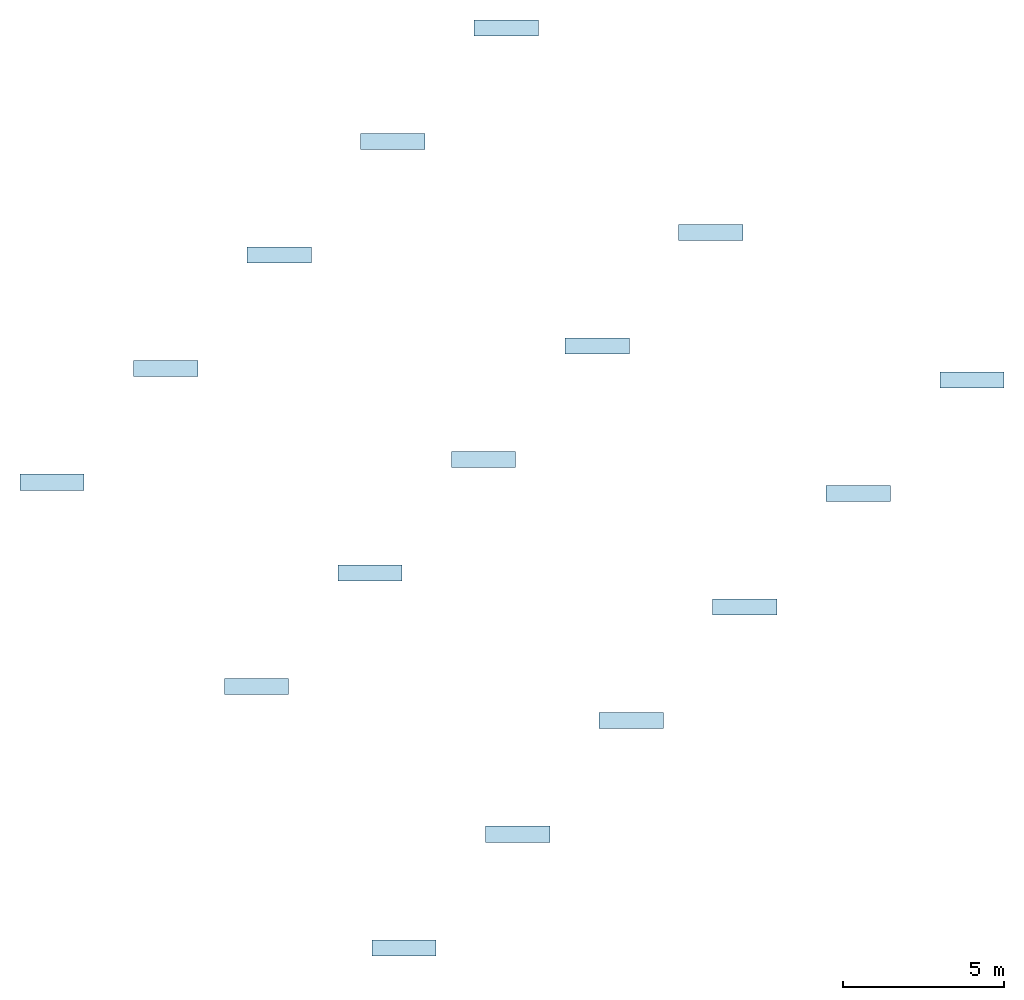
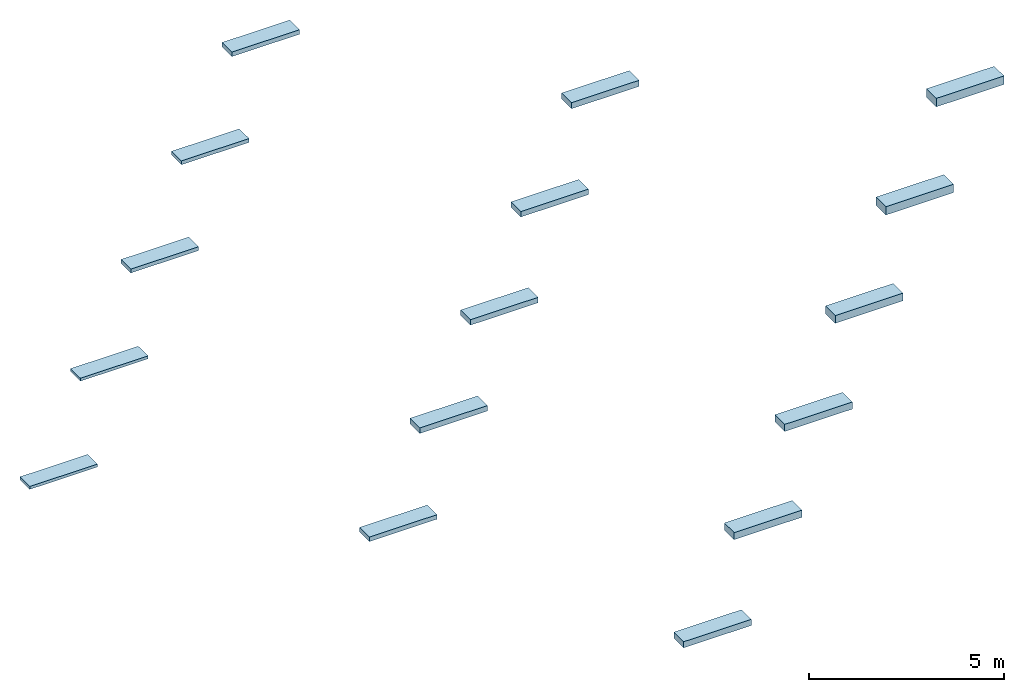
# One storey: 16 slabs, 16 elements without a shape of their own.
"""IFC2X3 building model written with IfcOpenShell, lengths in millimetres."""

from ifc_helpers import new_model, entity, si_unit, converted_unit, derived_unit, direction, frame, frame_2d, origin, origin_2d_with_axis, place, context, subcontext, project, spatial, rectangle, extrude, material, layer, layer_set, element, aggregate, save


model = new_model("IFC2X3")

# Units and contexts
model_context = context("Model", 3, precision=0.01, world=origin(), true_north=direction((6.12303176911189e-17, 1.0)))
context_of_model = context(None, 3, precision=0.01, world=origin(), true_north=direction((6.12303176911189e-17, 1.0)))
body_context = subcontext(model_context, "Body", "Model", "MODEL_VIEW")
ifc_project = project(units=[si_unit("LENGTHUNIT", "METRE", prefix="MILLI"), si_unit("AREAUNIT", "SQUARE_METRE"), si_unit("VOLUMEUNIT", "CUBIC_METRE"), converted_unit("PLANEANGLEUNIT", "DEGREE", entity("IfcRatioMeasure", 0.0174532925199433), si_unit("PLANEANGLEUNIT", "RADIAN"), dimensions=[0, 0, 0, 0, 0, 0, 0]), si_unit("MASSUNIT", "GRAM", prefix="KILO"), derived_unit("MASSDENSITYUNIT", [(si_unit("MASSUNIT", "GRAM", prefix="KILO"), 1), (si_unit("LENGTHUNIT", "METRE"), -3)]), si_unit("TIMEUNIT", "SECOND"), si_unit("FREQUENCYUNIT", "HERTZ"), si_unit("THERMODYNAMICTEMPERATUREUNIT", "DEGREE_CELSIUS"), derived_unit("THERMALTRANSMITTANCEUNIT", [(si_unit("MASSUNIT", "GRAM", prefix="KILO"), 1), (si_unit("THERMODYNAMICTEMPERATUREUNIT", "KELVIN"), -1), (si_unit("TIMEUNIT", "SECOND"), -3)]), derived_unit("VOLUMETRICFLOWRATEUNIT", [(si_unit("LENGTHUNIT", "METRE"), 3), (si_unit("TIMEUNIT", "SECOND"), -1)]), si_unit("ELECTRICCURRENTUNIT", "AMPERE"), si_unit("ELECTRICVOLTAGEUNIT", "VOLT"), si_unit("POWERUNIT", "WATT"), si_unit("FORCEUNIT", "NEWTON", prefix="KILO"), si_unit("ILLUMINANCEUNIT", "LUX"), si_unit("LUMINOUSFLUXUNIT", "LUMEN"), si_unit("LUMINOUSINTENSITYUNIT", "CANDELA"), derived_unit("USERDEFINED", [(si_unit("MASSUNIT", "GRAM", prefix="KILO"), -1), (si_unit("LENGTHUNIT", "METRE"), -2), (si_unit("TIMEUNIT", "SECOND"), 3), (si_unit("LUMINOUSFLUXUNIT", "LUMEN"), 1)]), derived_unit("LINEARVELOCITYUNIT", [(si_unit("LENGTHUNIT", "METRE"), 1), (si_unit("TIMEUNIT", "SECOND"), -1)]), si_unit("PRESSUREUNIT", "PASCAL"), derived_unit("USERDEFINED", [(si_unit("LENGTHUNIT", "METRE"), -2), (si_unit("MASSUNIT", "GRAM", prefix="KILO"), 1), (si_unit("TIMEUNIT", "SECOND"), -2)])], contexts=[model_context, context_of_model])

# Site, building, storey
site_placement = place(None, origin())
site = spatial("IfcSite", under=ifc_project, at=site_placement, Name="Default", CompositionType="ELEMENT")
building_placement = place(site_placement, origin())
building = spatial("IfcBuilding", under=site, at=building_placement, CompositionType="ELEMENT")
storey_placement = place(building_placement, frame((0.0, 0.0, 2500.0)))
storey = spatial("IfcBuildingStorey", under=building, at=storey_placement, Name="Lengte", CompositionType="ELEMENT", Elevation=2500.0)

# Roof, slab
roof_1_placement = place(storey_placement, frame((-9072.40468108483, 2539.14727702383, 0.0)))
roof_1 = element("IfcRoof", 1, at=roof_1_placement, inside=storey, Name="Basic Roof:NLRS_27_RO_Naturoll 037_90x380x8200mm", ObjectType="Basic Roof:NLRS_27_RO_Naturoll 037_90x380x8200mm", ShapeType="NOTDEFINED")
ifc_material = material(Name="Knauf Insulation_Ecose® glaswol_naturoll 037")
ifc_layer_1 = layer(ifc_material, 90.0)
ifc_layer_set_1 = layer_set([ifc_layer_1], Name="Basic Roof:NLRS_27_RO_Naturoll 037_90x380x8200mm")
slab_1_placement = place(roof_1_placement, origin())
slab_1 = element("IfcSlab", 2, at=slab_1_placement, material=ifc_layer_set_1, Name="Basic Roof:NLRS_27_RO_Naturoll 037_90x380x8200mm", ObjectType="Basic Roof:NLRS_27_RO_Naturoll 037_90x380x8200mm", PredefinedType="ROOF", context=body_context, shape_type="SweptSolid", body=[
    extrude(rectangle(XDim=2000.0, YDim=499.999999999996, at=frame_2d((-5.6843418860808e-13, -2.70006239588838e-13), x_axis=(1.0, 0.0))), frame((1000.0, 250.0, 0.0)), (0.0, 0.0, 1.0), 90.0000000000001),
])
aggregate(roof_1, [slab_1])

roof_2_placement = place(storey_placement, frame((-5536.87077515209, 6074.68118295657, 0.0)))
roof_2 = element("IfcRoof", 3, at=roof_2_placement, inside=storey, Name="Basic Roof:NLRS_27_RO_Naturoll 037_90x580x8200mm", ObjectType="Basic Roof:NLRS_27_RO_Naturoll 037_90x580x8200mm", ShapeType="NOTDEFINED")
ifc_layer_2 = layer(ifc_material, 90.0)
ifc_layer_set_2 = layer_set([ifc_layer_2], Name="Basic Roof:NLRS_27_RO_Naturoll 037_90x580x8200mm")
slab_2_placement = place(roof_2_placement, origin())
slab_2 = element("IfcSlab", 4, at=slab_2_placement, material=ifc_layer_set_2, Name="Basic Roof:NLRS_27_RO_Naturoll 037_90x580x8200mm", ObjectType="Basic Roof:NLRS_27_RO_Naturoll 037_90x580x8200mm", PredefinedType="ROOF", context=body_context, shape_type="SweptSolid", body=[
    extrude(rectangle(XDim=2000.0, YDim=499.999999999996, at=frame_2d((0.0, 5.40012479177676e-13), x_axis=(1.0, 0.0))), frame((1000.0, 250.0, 0.0)), (0.0, 0.0, 1.0), 90.0000000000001),
])
aggregate(roof_2, [slab_2])

roof_3_placement = place(storey_placement, frame((-2001.33686921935, 9610.2150888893, 0.0)))
roof_3 = element("IfcRoof", 5, at=roof_3_placement, inside=storey, Name="Basic Roof:NLRS_27_RO_Naturoll 037_120x380x6500mm", ObjectType="Basic Roof:NLRS_27_RO_Naturoll 037_120x380x6500mm", ShapeType="NOTDEFINED")
ifc_layer_3 = layer(ifc_material, 120.0)
ifc_layer_set_3 = layer_set([ifc_layer_3], Name="Basic Roof:NLRS_27_RO_Naturoll 037_120x380x6500mm")
slab_3_placement = place(roof_3_placement, origin())
slab_3 = element("IfcSlab", 6, at=slab_3_placement, material=ifc_layer_set_3, Name="Basic Roof:NLRS_27_RO_Naturoll 037_120x380x6500mm", ObjectType="Basic Roof:NLRS_27_RO_Naturoll 037_120x380x6500mm", PredefinedType="ROOF", context=body_context, shape_type="SweptSolid", body=[
    extrude(rectangle(XDim=2000.0, YDim=499.999999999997, at=frame_2d((0.0, 1.09423581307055e-12), x_axis=(1.0, 0.0))), frame((1000.0, 250.0, 0.0)), (0.0, 0.0, 1.0), 120.0),
])
aggregate(roof_3, [slab_3])

roof_4_placement = place(storey_placement, frame((1534.19703671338, 13145.748994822, 0.0)))
roof_4 = element("IfcRoof", 7, at=roof_4_placement, inside=storey, Name="Basic Roof:NLRS_27_RO_Naturoll 037_120x580x6500mm", ObjectType="Basic Roof:NLRS_27_RO_Naturoll 037_120x580x6500mm", ShapeType="NOTDEFINED")
ifc_layer_4 = layer(ifc_material, 120.0)
ifc_layer_set_4 = layer_set([ifc_layer_4], Name="Basic Roof:NLRS_27_RO_Naturoll 037_120x580x6500mm")
slab_4_placement = place(roof_4_placement, origin())
slab_4 = element("IfcSlab", 8, at=slab_4_placement, material=ifc_layer_set_4, Name="Basic Roof:NLRS_27_RO_Naturoll 037_120x580x6500mm", ObjectType="Basic Roof:NLRS_27_RO_Naturoll 037_120x580x6500mm", PredefinedType="ROOF", context=body_context, shape_type="SweptSolid", body=[
    extrude(rectangle(XDim=2000.0, YDim=499.999999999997, at=frame_2d((0.0, 1.09423581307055e-12), x_axis=(1.0, 0.0))), frame((1000.0, 250.0, 0.0)), (0.0, 0.0, 1.0), 120.0),
])
aggregate(roof_4, [slab_4])

roof_5_placement = place(storey_placement, frame((5069.73094264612, 16681.2829007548, 0.0)))
roof_5 = element("IfcRoof", 9, at=roof_5_placement, inside=storey, Name="Basic Roof:NLRS_27_RO_Naturoll 037_140x380x5600mm", ObjectType="Basic Roof:NLRS_27_RO_Naturoll 037_140x380x5600mm", ShapeType="NOTDEFINED")
ifc_layer_5 = layer(ifc_material, 140.0)
ifc_layer_set_5 = layer_set([ifc_layer_5], Name="Basic Roof:NLRS_27_RO_Naturoll 037_140x380x5600mm")
slab_5_placement = place(roof_5_placement, origin())
slab_5 = element("IfcSlab", 10, at=slab_5_placement, material=ifc_layer_set_5, Name="Basic Roof:NLRS_27_RO_Naturoll 037_140x380x5600mm", ObjectType="Basic Roof:NLRS_27_RO_Naturoll 037_140x380x5600mm", PredefinedType="ROOF", context=body_context, shape_type="SweptSolid", body=[
    extrude(rectangle(XDim=2000.0, YDim=499.999999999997, at=frame_2d((0.0, 1.09423581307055e-12), x_axis=(1.0, 0.0))), frame((1000.0, 250.0, 0.0)), (0.0, 0.0, 1.0), 140.0),
])
aggregate(roof_5, [slab_5])

roof_6_placement = place(storey_placement, frame((-2708.44365040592, -3824.81375365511, 0.0)))
roof_6 = element("IfcRoof", 11, at=roof_6_placement, inside=storey, Name="Basic Roof:NLRS_27_RO_Naturoll 037_140x580x5600mm", ObjectType="Basic Roof:NLRS_27_RO_Naturoll 037_140x580x5600mm", ShapeType="NOTDEFINED")
ifc_layer_6 = layer(ifc_material, 140.0)
ifc_layer_set_6 = layer_set([ifc_layer_6], Name="Basic Roof:NLRS_27_RO_Naturoll 037_140x580x5600mm")
slab_6_placement = place(roof_6_placement, origin())
slab_6 = element("IfcSlab", 12, at=slab_6_placement, material=ifc_layer_set_6, Name="Basic Roof:NLRS_27_RO_Naturoll 037_140x580x5600mm", ObjectType="Basic Roof:NLRS_27_RO_Naturoll 037_140x580x5600mm", PredefinedType="ROOF", context=body_context, shape_type="SweptSolid", body=[
    extrude(rectangle(XDim=2000.0, YDim=499.999999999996, at=frame_2d((0.0, -2.70006239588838e-13), x_axis=(1.0, 0.0))), frame((1000.0, 250.0, 0.0)), (0.0, 0.0, 1.0), 140.0),
])
aggregate(roof_6, [slab_6])

roof_7_placement = place(storey_placement, frame((827.09025552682, -289.279847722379, 0.0)))
roof_7 = element("IfcRoof", 13, at=roof_7_placement, inside=storey, Name="Basic Roof:NLRS_27_RO_Naturoll 037_170x380x4600mm", ObjectType="Basic Roof:NLRS_27_RO_Naturoll 037_170x380x4600mm", ShapeType="NOTDEFINED")
ifc_layer_7 = layer(ifc_material, 170.0)
ifc_layer_set_7 = layer_set([ifc_layer_7], Name="Basic Roof:NLRS_27_RO_Naturoll 037_170x380x4600mm")
slab_7_placement = place(roof_7_placement, origin())
slab_7 = element("IfcSlab", 14, at=slab_7_placement, material=ifc_layer_set_7, Name="Basic Roof:NLRS_27_RO_Naturoll 037_170x380x4600mm", ObjectType="Basic Roof:NLRS_27_RO_Naturoll 037_170x380x4600mm", PredefinedType="ROOF", context=body_context, shape_type="SweptSolid", body=[
    extrude(rectangle(XDim=2000.0, YDim=499.999999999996, at=origin_2d_with_axis()), frame((1000.0, 250.0, 0.0)), (0.0, 0.0, 1.0), 170.0),
])
aggregate(roof_7, [slab_7])

roof_8_placement = place(storey_placement, frame((4362.62416145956, 3246.25405821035, 0.0)))
roof_8 = element("IfcRoof", 15, at=roof_8_placement, inside=storey, Name="Basic Roof:NLRS_27_RO_Naturoll 037_170x580x4600mm", ObjectType="Basic Roof:NLRS_27_RO_Naturoll 037_170x580x4600mm", ShapeType="NOTDEFINED")
ifc_layer_8 = layer(ifc_material, 170.0)
ifc_layer_set_8 = layer_set([ifc_layer_8], Name="Basic Roof:NLRS_27_RO_Naturoll 037_170x580x4600mm")
slab_8_placement = place(roof_8_placement, origin())
slab_8 = element("IfcSlab", 16, at=slab_8_placement, material=ifc_layer_set_8, Name="Basic Roof:NLRS_27_RO_Naturoll 037_170x580x4600mm", ObjectType="Basic Roof:NLRS_27_RO_Naturoll 037_170x580x4600mm", PredefinedType="ROOF", context=body_context, shape_type="SweptSolid", body=[
    extrude(rectangle(XDim=2000.0, YDim=499.999999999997, at=frame_2d((2.8421709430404e-13, 0.0), x_axis=(1.0, 0.0))), frame((1000.0, 250.0, 0.0)), (0.0, 0.0, 1.0), 170.0),
])
aggregate(roof_8, [slab_8])

roof_9_placement = place(storey_placement, frame((7898.1580673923, 6781.78796414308, 0.0)))
roof_9 = element("IfcRoof", 17, at=roof_9_placement, inside=storey, Name="Basic Roof:NLRS_27_RO_Naturoll 037_170x590x4600mm", ObjectType="Basic Roof:NLRS_27_RO_Naturoll 037_170x590x4600mm", ShapeType="NOTDEFINED")
ifc_layer_9 = layer(ifc_material, 170.0)
ifc_layer_set_9 = layer_set([ifc_layer_9], Name="Basic Roof:NLRS_27_RO_Naturoll 037_170x590x4600mm")
slab_9_placement = place(roof_9_placement, origin())
slab_9 = element("IfcSlab", 18, at=slab_9_placement, material=ifc_layer_set_9, Name="Basic Roof:NLRS_27_RO_Naturoll 037_170x590x4600mm", ObjectType="Basic Roof:NLRS_27_RO_Naturoll 037_170x590x4600mm", PredefinedType="ROOF", context=body_context, shape_type="SweptSolid", body=[
    extrude(rectangle(XDim=2000.0, YDim=499.999999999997, at=origin_2d_with_axis()), frame((1000.0, 250.0, 0.0)), (0.0, 0.0, 1.0), 170.0),
])
aggregate(roof_9, [slab_9])

roof_10_placement = place(storey_placement, frame((11433.691973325, 10317.3218700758, 0.0)))
roof_10 = element("IfcRoof", 19, at=roof_10_placement, inside=storey, Name="Basic Roof:NLRS_27_RO_Naturoll 037_190x380x4100mm", ObjectType="Basic Roof:NLRS_27_RO_Naturoll 037_190x380x4100mm", ShapeType="NOTDEFINED")
ifc_layer_10 = layer(ifc_material, 190.0)
ifc_layer_set_10 = layer_set([ifc_layer_10], Name="Basic Roof:NLRS_27_RO_Naturoll 037_190x380x4100mm")
slab_10_placement = place(roof_10_placement, origin())
slab_10 = element("IfcSlab", 20, at=slab_10_placement, material=ifc_layer_set_10, Name="Basic Roof:NLRS_27_RO_Naturoll 037_190x380x4100mm", ObjectType="Basic Roof:NLRS_27_RO_Naturoll 037_190x380x4100mm", PredefinedType="ROOF", context=body_context, shape_type="SweptSolid", body=[
    extrude(rectangle(XDim=2000.0, YDim=499.999999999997, at=frame_2d((0.0, 1.09423581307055e-12), x_axis=(1.0, 0.0))), frame((1000.0, 250.0, 0.0)), (0.0, 0.0, 1.0), 190.0),
])
aggregate(roof_10, [slab_10])

roof_11_placement = place(storey_placement, frame((1887.75042730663, -11956.5417373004, 0.0)))
roof_11 = element("IfcRoof", 21, at=roof_11_placement, inside=storey, Name="Basic Roof:NLRS_27_RO_Naturoll 037_190x590x4100mm", ObjectType="Basic Roof:NLRS_27_RO_Naturoll 037_190x590x4100mm", ShapeType="NOTDEFINED")
ifc_layer_11 = layer(ifc_material, 190.0)
ifc_layer_set_11 = layer_set([ifc_layer_11], Name="Basic Roof:NLRS_27_RO_Naturoll 037_190x590x4100mm")
slab_11_placement = place(roof_11_placement, origin())
slab_11 = element("IfcSlab", 22, at=slab_11_placement, material=ifc_layer_set_11, Name="Basic Roof:NLRS_27_RO_Naturoll 037_190x590x4100mm", ObjectType="Basic Roof:NLRS_27_RO_Naturoll 037_190x590x4100mm", PredefinedType="ROOF", context=body_context, shape_type="SweptSolid", body=[
    extrude(rectangle(XDim=2000.0, YDim=499.999999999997, at=frame_2d((0.0, -1.09423581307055e-12), x_axis=(1.0, 0.0))), frame((1000.0, 250.0, 0.0)), (0.0, 0.0, 1.0), 190.0),
])
aggregate(roof_11, [slab_11])

roof_12_placement = place(storey_placement, frame((5423.28433323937, -8421.00783136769, 0.0)))
roof_12 = element("IfcRoof", 23, at=roof_12_placement, inside=storey, Name="Basic Roof:NLRS_27_RO_Naturoll 037_220x580x3500mm", ObjectType="Basic Roof:NLRS_27_RO_Naturoll 037_220x580x3500mm", ShapeType="NOTDEFINED")
ifc_layer_12 = layer(ifc_material, 220.0)
ifc_layer_set_12 = layer_set([ifc_layer_12], Name="Basic Roof:NLRS_27_RO_Naturoll 037_220x580x3500mm")
slab_12_placement = place(roof_12_placement, origin())
slab_12 = element("IfcSlab", 24, at=slab_12_placement, material=ifc_layer_set_12, Name="Basic Roof:NLRS_27_RO_Naturoll 037_220x580x3500mm", ObjectType="Basic Roof:NLRS_27_RO_Naturoll 037_220x580x3500mm", PredefinedType="ROOF", context=body_context, shape_type="SweptSolid", body=[
    extrude(rectangle(XDim=2000.0, YDim=499.999999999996, at=frame_2d((0.0, -5.40012479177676e-13), x_axis=(1.0, 0.0))), frame((1000.0, 250.0, 0.0)), (0.0, 0.0, 1.0), 220.0),
])
aggregate(roof_12, [slab_12])

roof_13_placement = place(storey_placement, frame((8958.81823917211, -4885.47392543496, 0.0)))
roof_13 = element("IfcRoof", 25, at=roof_13_placement, inside=storey, Name="Basic Roof:NLRS_27_RO_Naturoll 037_220x590x3500mm", ObjectType="Basic Roof:NLRS_27_RO_Naturoll 037_220x590x3500mm", ShapeType="NOTDEFINED")
ifc_layer_13 = layer(ifc_material, 220.0)
ifc_layer_set_13 = layer_set([ifc_layer_13], Name="Basic Roof:NLRS_27_RO_Naturoll 037_220x590x3500mm")
slab_13_placement = place(roof_13_placement, origin())
slab_13 = element("IfcSlab", 26, at=slab_13_placement, material=ifc_layer_set_13, Name="Basic Roof:NLRS_27_RO_Naturoll 037_220x590x3500mm", ObjectType="Basic Roof:NLRS_27_RO_Naturoll 037_220x590x3500mm", PredefinedType="ROOF", context=body_context, shape_type="SweptSolid", body=[
    extrude(rectangle(XDim=2000.0, YDim=499.999999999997, at=origin_2d_with_axis()), frame((1000.0, 250.0, 0.0)), (0.0, 0.0, 1.0), 220.0),
])
aggregate(roof_13, [slab_13])

roof_14_placement = place(storey_placement, frame((12494.3521451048, -1349.94001950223, 0.0)))
roof_14 = element("IfcRoof", 27, at=roof_14_placement, inside=storey, Name="Basic Roof:NLRS_27_RO_Naturoll 037_240x590x3250mm", ObjectType="Basic Roof:NLRS_27_RO_Naturoll 037_240x590x3250mm", ShapeType="NOTDEFINED")
ifc_layer_14 = layer(ifc_material, 240.0)
ifc_layer_set_14 = layer_set([ifc_layer_14], Name="Basic Roof:NLRS_27_RO_Naturoll 037_240x590x3250mm")
slab_14_placement = place(roof_14_placement, origin())
slab_14 = element("IfcSlab", 28, at=slab_14_placement, material=ifc_layer_set_14, Name="Basic Roof:NLRS_27_RO_Naturoll 037_240x590x3250mm", ObjectType="Basic Roof:NLRS_27_RO_Naturoll 037_240x590x3250mm", PredefinedType="ROOF", context=body_context, shape_type="SweptSolid", body=[
    extrude(rectangle(XDim=2000.0, YDim=499.999999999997, at=origin_2d_with_axis()), frame((1000.0, 250.0, 0.0)), (0.0, 0.0, 1.0), 240.0),
])
aggregate(roof_14, [slab_14])

roof_15_placement = place(storey_placement, frame((16029.8860510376, 2185.5938864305, 0.0)))
roof_15 = element("IfcRoof", 29, at=roof_15_placement, inside=storey, Name="Basic Roof:NLRS_27_RO_Naturoll 037_260x580x3000mm", ObjectType="Basic Roof:NLRS_27_RO_Naturoll 037_260x580x3000mm", ShapeType="NOTDEFINED")
ifc_layer_15 = layer(ifc_material, 260.0)
ifc_layer_set_15 = layer_set([ifc_layer_15], Name="Basic Roof:NLRS_27_RO_Naturoll 037_260x580x3000mm")
slab_15_placement = place(roof_15_placement, origin())
slab_15 = element("IfcSlab", 30, at=slab_15_placement, material=ifc_layer_set_15, Name="Basic Roof:NLRS_27_RO_Naturoll 037_260x580x3000mm", ObjectType="Basic Roof:NLRS_27_RO_Naturoll 037_260x580x3000mm", PredefinedType="ROOF", context=body_context, shape_type="SweptSolid", body=[
    extrude(rectangle(XDim=2000.0, YDim=499.999999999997, at=origin_2d_with_axis()), frame((1000.0, 250.0, 0.0)), (0.0, 0.0, 1.0), 260.0),
])
aggregate(roof_15, [slab_15])

roof_16_placement = place(storey_placement, frame((19565.4199569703, 5721.12779236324, 0.0)))
roof_16 = element("IfcRoof", 31, at=roof_16_placement, inside=storey, Name="Basic Roof:NLRS_27_RO_Naturoll 037_265x590x3000mm", ObjectType="Basic Roof:NLRS_27_RO_Naturoll 037_265x590x3000mm", ShapeType="NOTDEFINED")
ifc_layer_16 = layer(ifc_material, 265.0)
ifc_layer_set_16 = layer_set([ifc_layer_16], Name="Basic Roof:NLRS_27_RO_Naturoll 037_265x590x3000mm")
slab_16_placement = place(roof_16_placement, origin())
slab_16 = element("IfcSlab", 32, at=slab_16_placement, material=ifc_layer_set_16, Name="Basic Roof:NLRS_27_RO_Naturoll 037_265x590x3000mm", ObjectType="Basic Roof:NLRS_27_RO_Naturoll 037_265x590x3000mm", PredefinedType="ROOF", context=body_context, shape_type="SweptSolid", body=[
    extrude(rectangle(XDim=2000.0, YDim=499.999999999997, at=frame_2d((2.1600499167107e-12, 0.0), x_axis=(1.0, 0.0))), frame((1000.0, 250.0, 0.0)), (0.0, 0.0, 1.0), 265.0),
])
aggregate(roof_16, [slab_16])

save(model, "model.ifc")
